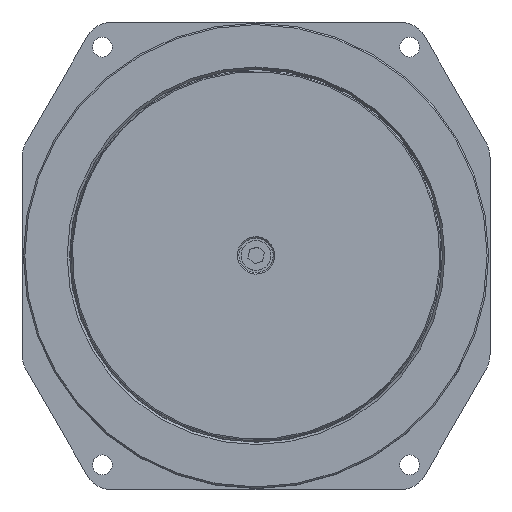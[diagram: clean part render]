
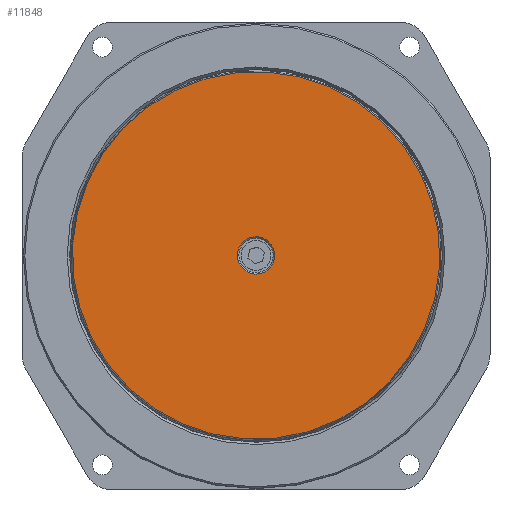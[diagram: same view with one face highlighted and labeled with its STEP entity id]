
A CAD part, top view. The second image highlights one B-rep face of the part: STEP entity #11848.
In plain terms, the highlighted planar face has unit normal (0, 0, 1).
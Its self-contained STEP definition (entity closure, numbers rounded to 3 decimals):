
#519=FACE_BOUND('',#2194,.T.);
#787=PLANE('',#13361);
#1406=FACE_OUTER_BOUND('',#2193,.T.);
#2193=EDGE_LOOP('',(#9831));
#2194=EDGE_LOOP('',(#9832));
#4680=CIRCLE('',#13358,6.25);
#4683=CIRCLE('',#13362,61.598);
#5513=VERTEX_POINT('',#36830);
#5516=VERTEX_POINT('',#36838);
#7022=EDGE_CURVE('',#5513,#5513,#4680,.T.);
#7026=EDGE_CURVE('',#5516,#5516,#4683,.T.);
#9831=ORIENTED_EDGE('',*,*,#7026,.F.);
#9832=ORIENTED_EDGE('',*,*,#7022,.F.);
#11848=ADVANCED_FACE('',(#1406,#519),#787,.T.);
#13358=AXIS2_PLACEMENT_3D('',#36831,#15793,#15794);
#13361=AXIS2_PLACEMENT_3D('',#36837,#15800,#15801);
#13362=AXIS2_PLACEMENT_3D('',#36839,#15802,#15803);
#15793=DIRECTION('center_axis',(0.,0.,1.));
#15794=DIRECTION('ref_axis',(-1.,0.,0.));
#15800=DIRECTION('center_axis',(0.,0.,1.));
#15801=DIRECTION('ref_axis',(1.,0.,0.));
#15802=DIRECTION('center_axis',(0.,0.,-1.));
#15803=DIRECTION('ref_axis',(-1.,0.,0.));
#36830=CARTESIAN_POINT('',(6.25,0.,14.));
#36831=CARTESIAN_POINT('Origin',(0.,0.,14.));
#36837=CARTESIAN_POINT('Origin',(0.,0.,
14.));
#36838=CARTESIAN_POINT('',(61.598,0.,14.));
#36839=CARTESIAN_POINT('Origin',(0.,0.,14.));
